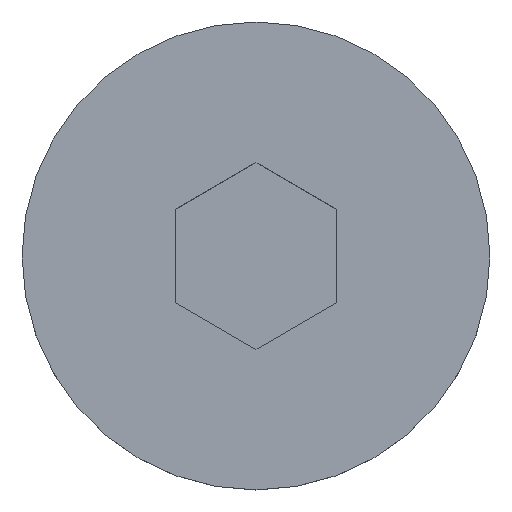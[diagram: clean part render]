
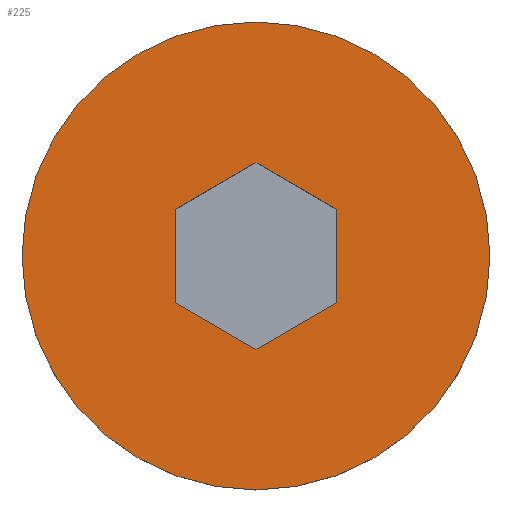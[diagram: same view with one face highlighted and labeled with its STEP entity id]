
A CAD part, top view. The second image highlights one B-rep face of the part: STEP entity #225.
In plain terms, the highlighted planar face has unit normal (0, 0, 1).
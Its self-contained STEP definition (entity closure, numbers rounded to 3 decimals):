
#19=FACE_BOUND('',#53,.T.);
#22=PLANE('',#260);
#38=FACE_OUTER_BOUND('',#52,.T.);
#52=EDGE_LOOP('',(#185));
#53=EDGE_LOOP('',(#186,#187,#188,#189,#190,#191));
#70=LINE('',#376,#92);
#73=LINE('',#383,#95);
#74=LINE('',#385,#96);
#75=LINE('',#387,#97);
#76=LINE('',#389,#98);
#77=LINE('',#390,#99);
#92=VECTOR('',#307,10.);
#95=VECTOR('',#314,10.);
#96=VECTOR('',#315,10.);
#97=VECTOR('',#316,10.);
#98=VECTOR('',#317,10.);
#99=VECTOR('',#318,10.);
#111=CIRCLE('',#261,11.56);
#123=VERTEX_POINT('',#374);
#124=VERTEX_POINT('',#375);
#125=VERTEX_POINT('',#380);
#126=VERTEX_POINT('',#382);
#127=VERTEX_POINT('',#384);
#128=VERTEX_POINT('',#386);
#129=VERTEX_POINT('',#388);
#145=EDGE_CURVE('',#123,#124,#70,.T.);
#148=EDGE_CURVE('',#125,#125,#111,.T.);
#149=EDGE_CURVE('',#124,#126,#73,.T.);
#150=EDGE_CURVE('',#126,#127,#74,.T.);
#151=EDGE_CURVE('',#127,#128,#75,.T.);
#152=EDGE_CURVE('',#128,#129,#76,.T.);
#153=EDGE_CURVE('',#129,#123,#77,.T.);
#185=ORIENTED_EDGE('',*,*,#148,.F.);
#186=ORIENTED_EDGE('',*,*,#145,.T.);
#187=ORIENTED_EDGE('',*,*,#149,.T.);
#188=ORIENTED_EDGE('',*,*,#150,.T.);
#189=ORIENTED_EDGE('',*,*,#151,.T.);
#190=ORIENTED_EDGE('',*,*,#152,.T.);
#191=ORIENTED_EDGE('',*,*,#153,.T.);
#225=ADVANCED_FACE('',(#38,#19),#22,.T.);
#260=AXIS2_PLACEMENT_3D('',#379,#310,#311);
#261=AXIS2_PLACEMENT_3D('',#381,#312,#313);
#307=DIRECTION('',(0.866,0.5,0.));
#310=DIRECTION('center_axis',(0.,0.,1.));
#311=DIRECTION('ref_axis',(1.,0.,0.));
#312=DIRECTION('center_axis',(0.,0.,-1.));
#313=DIRECTION('ref_axis',(1.,0.,0.));
#314=DIRECTION('',(0.866,-0.5,0.));
#315=DIRECTION('',(0.,-1.,0.));
#316=DIRECTION('',(-0.866,-0.5,0.));
#317=DIRECTION('',(-0.866,0.5,0.));
#318=DIRECTION('',(0.,1.,0.));
#374=CARTESIAN_POINT('',(-4.,2.309,13.44));
#375=CARTESIAN_POINT('',(0.,4.619,13.44));
#376=CARTESIAN_POINT('',(-7.335,0.384,13.44));
#379=CARTESIAN_POINT('Origin',(-11.56,0.,13.44));
#380=CARTESIAN_POINT('',(11.56,0.,13.44));
#381=CARTESIAN_POINT('Origin',(0.,0.,13.44));
#382=CARTESIAN_POINT('',(4.,2.309,13.44));
#383=CARTESIAN_POINT('',(-3.335,6.544,13.44));
#384=CARTESIAN_POINT('',(4.,-2.309,13.44));
#385=CARTESIAN_POINT('',(4.,1.155,13.44));
#386=CARTESIAN_POINT('',(0.,-4.619,13.44));
#387=CARTESIAN_POINT('',(-1.335,-5.39,13.44));
#388=CARTESIAN_POINT('',(-4.,-2.309,13.44));
#389=CARTESIAN_POINT('',(-5.335,-1.539,13.44));
#390=CARTESIAN_POINT('',(-4.,-1.155,13.44));
